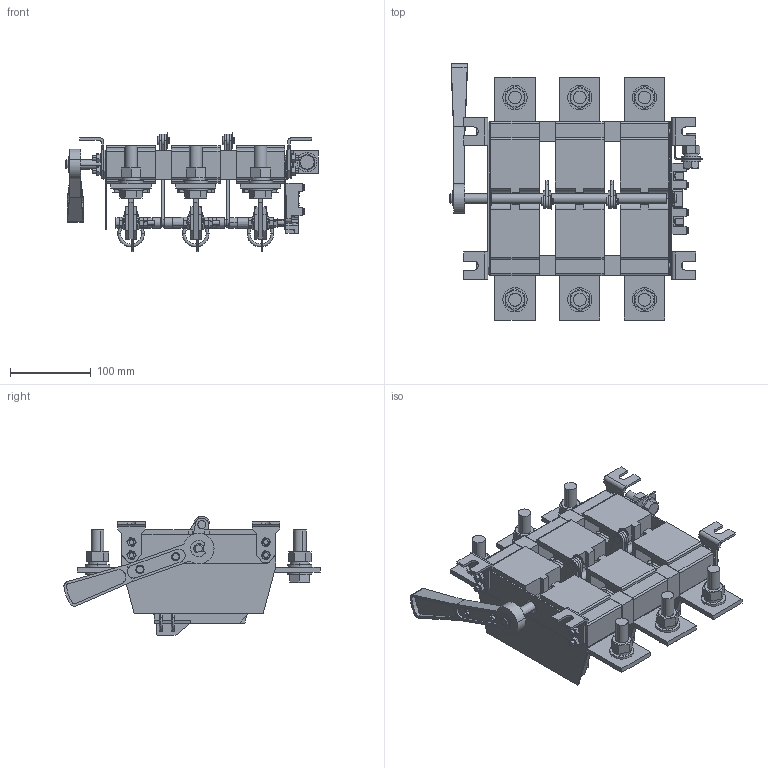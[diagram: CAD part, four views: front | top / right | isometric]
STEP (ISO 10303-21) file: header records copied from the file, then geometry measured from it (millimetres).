
FILE_DESCRIPTION (( 'STEP AP214' ), '1' );
FILE_NAME ('Ðàçúåäèíèòåëü ÐÅ19-41-31120-1000À-ÓÕË3-ÊÝÀÇ.STEP', '2023-08-21T10:50:34', ( '' ), ( '' ), 'SwSTEP 2.0', 'SolidWorks 2018', '' );
FILE_SCHEMA (( 'AUTOMOTIVE_DESIGN' ));
Length unit declared in the file: millimetre
Products named in the file (1): Ðàçúåäèíèòåëü ÐÅ19-41-31120-1000À-ÓÕË3-ÊÝÀÇ
Bounding box: 312.5 x 316.51 x 147.25 mm (x, y, z)
Surface area: 648036.6 mm2 (no closed solid volume)
Topology: 0 solids, 249 shells, 1932 faces, 6652 edges, 4925 vertices
Faces by surface type: plane 1137, cylinder 558, cone 157, torus 64, sphere 16
Entity records: 96360 total; most frequent: CARTESIAN_POINT 17873, DIRECTION 11974, ORIENTED_EDGE 10431, EDGE_CURVE 6634, VERTEX_POINT 4925, AXIS2_PLACEMENT_3D 4173, LINE 3628, VECTOR 3628
